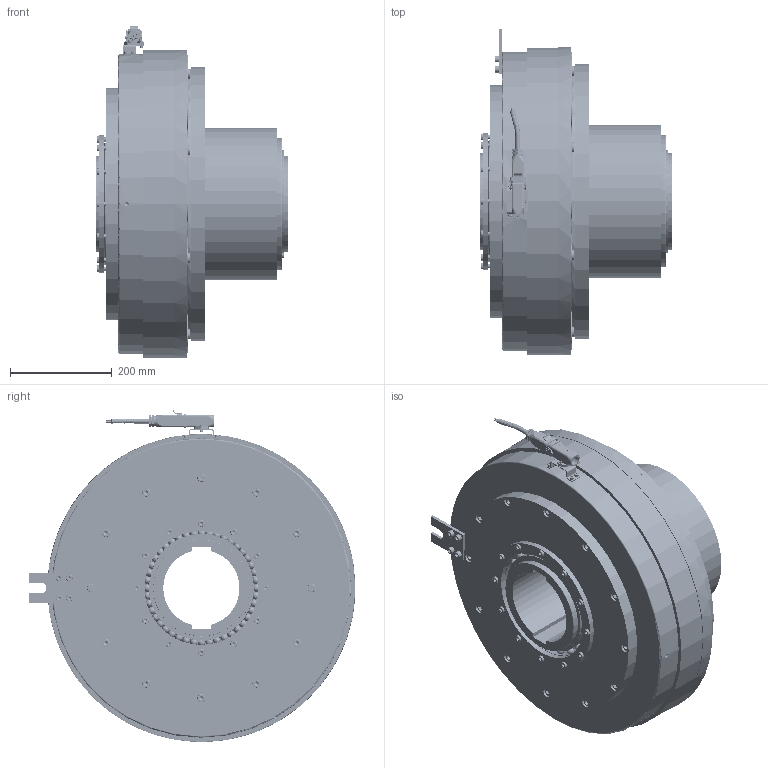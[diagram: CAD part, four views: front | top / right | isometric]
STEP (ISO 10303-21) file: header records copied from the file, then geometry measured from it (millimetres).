
FILE_DESCRIPTION(/* description */ (''),/* implementation_level */ '2;1');
FILE_NAME(/* name */ 'X:\INVENTOR\DISEGNI\08_Freni_Friz_Elettmag_Monodisco\08_26 EMSL_DF\EMSL_DF STEP\08_26_600_41 EMSL600_DF-R_S@STEP.stp',/* time_stamp */ '2018-04-24T09:57:52+02:00',/* author */ ('stefano'),/* organization */ (''),/* preprocessor_version */ 'ST-DEVELOPER v17',/* originating_system */ 'Autodesk Inventor 2018',/* authorisation */ '');
FILE_SCHEMA (('AUTOMOTIVE_DESIGN { 1 0 10303 214 3 1 1 }'));
Products named in the file (1): 08_26_600_41 EMSL600_DF-R - Spina_Substitute_1
Bounding box: 377 x 643 x 653.32 mm (x, y, z)
Volume: 41960821.7 mm3; surface area: 3882016.7 mm2
Topology: 2 solids, 2 shells, 2993 faces, 9565 edges, 6449 vertices
Faces by surface type: plane 1518, cylinder 735, torus 400, cone 164, sphere 155, bspline 21
Full cylindrical faces by diameter (mm): 0.35 x1, 0.491 x1, 0.753 x1, 0.95 x1, 0.986 x1, 1.05 x1, 2.5 x2, 3 x4, 3.2 x1, 3.25 x2, 3.59 x3, 4 x7, 4.675 x2, 4.8 x2, 5 x22, 5.25 x4, 5.5 x2, 6 x6, 6.2 x1, 7 x1, 7.9 x2, 8 x12, 8.2 x2, 8.376 x1, 8.5 x16, 9.5 x2, 10 x12, 12 x1, 13 x16, 13.5 x14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
Entity records: 136017 total; most frequent: CARTESIAN_POINT 49027, ORIENTED_EDGE 18406, DIRECTION 17031, EDGE_CURVE 9203, AXIS2_PLACEMENT_3D 6601, VERTEX_POINT 6449, LINE 3829, VECTOR 3829
